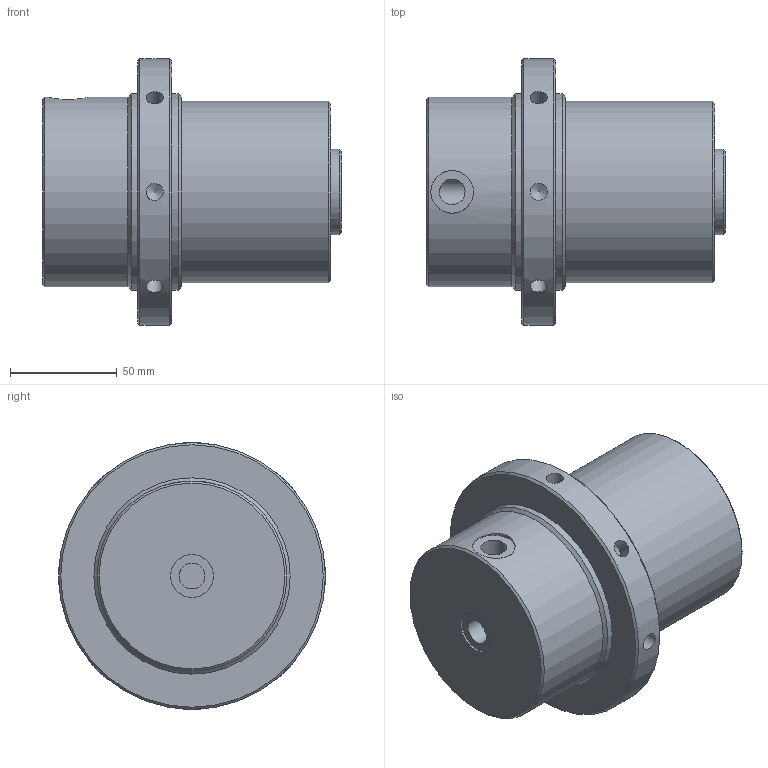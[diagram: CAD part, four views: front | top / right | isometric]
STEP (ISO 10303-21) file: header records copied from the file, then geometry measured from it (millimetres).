
FILE_DESCRIPTION( ( 'Unknown' ), '1' );
FILE_NAME( 'F:/JAKOB-STEP+IGES-Dateien/STEP-Dateien/ZSF/ZSF 6300 - 2.stp', 'Unknown', ( 'Unknown' ), ( 'Unknown' ), 'XStep 1.0', 'Unknown', ' ' );
FILE_SCHEMA( ( 'CONFIG_CONTROL_DESIGN' ) );
Length unit declared in the file: millimetre
Products named in the file (1): 1
Bounding box: 140 x 125 x 125 mm (x, y, z)
Volume: 864462.2 mm3; surface area: 71204.8 mm2
Topology: 1 solids, 1 shells, 45 faces, 111 edges, 72 vertices
Faces by surface type: cylinder 19, cone 17, plane 9
Full cylindrical faces by diameter (mm): 8 x8, 12 x2, 20 x2, 26.5 x1, 40 x1, 85 x1, 89 x1, 92 x2, 125 x1
Entity records: 1585 total; most frequent: CARTESIAN_POINT 761, DIRECTION 166, ORIENTED_EDGE 92, EDGE_LOOP 90, AXIS2_PLACEMENT_3D 83, FACE_OUTER_BOUND 64, VERTEX_POINT 55, EDGE_CURVE 46
